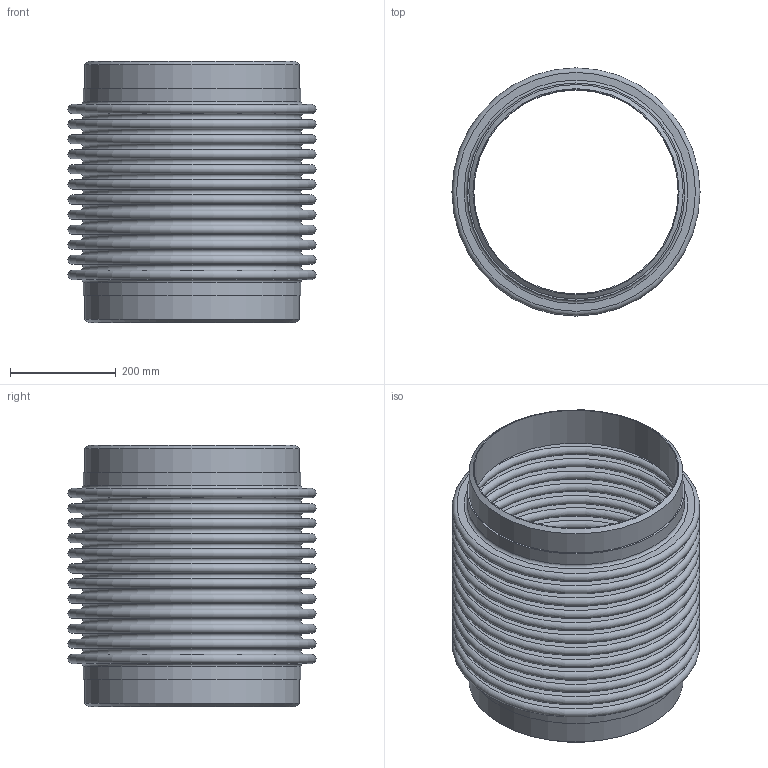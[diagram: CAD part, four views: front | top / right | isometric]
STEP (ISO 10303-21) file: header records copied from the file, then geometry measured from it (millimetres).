
FILE_DESCRIPTION(/* description */ ('EXPANSION JOINT,SINGLE, WELD ENDS,4 INCH NOMINAL'),/* implementation_level */ '2;1');
FILE_NAME(/* name */ 'ASSEMBLY US-16-12-300L.stp',/* time_stamp */ '2026-07-30T07:42:17-05:00',/* author */ ('jorgef'),/* organization */ (''),/* preprocessor_version */ 'ST-DEVELOPER v20.1',/* originating_system */ 'Autodesk Inventor 2026',/* authorisation */ '');
FILE_SCHEMA (('AUTOMOTIVE_DESIGN { 1 0 10303 214 3 1 1 }'));
Length unit declared in the file: inch
Products named in the file (3): ASSEMBLY  US-16-12-300L; STOCK BELLOW - US-16-12-300L; PIPE- US-16-12-300L
Assembly tree (3 placements, depth 2):
  ASSEMBLY  US-16-12-300L
    STOCK BELLOW - US-16-12-300L
    PIPE- US-16-12-300L  x2
Bounding box: 469.9 x 469.9 x 495.3 mm (x, y, z)
Volume: 5659411.4 mm3; surface area: 3006585 mm2
Topology: 5 solids, 5 shells, 118 faces, 180 edges, 121 vertices
Faces by surface type: plane 58, torus 50, cylinder 8, cone 2
Full cylindrical faces by diameter (mm): 387.35 x2, 406.4 x4, 412.496 x2
Entity records: 2769 total; most frequent: DIRECTION 573, CARTESIAN_POINT 405, ORIENTED_EDGE 342, AXIS2_PLACEMENT_3D 283, EDGE_CURVE 171, EDGE_LOOP 169, CIRCLE 164, VERTEX_POINT 114
